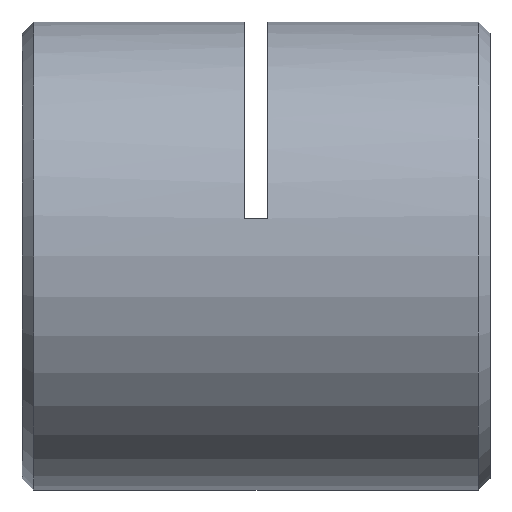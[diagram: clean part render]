
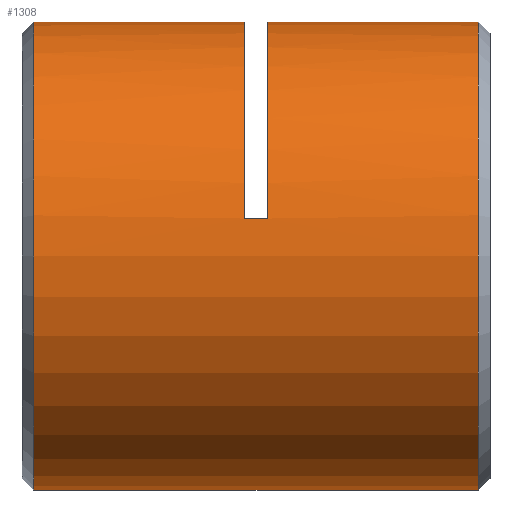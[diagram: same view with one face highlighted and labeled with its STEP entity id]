
A CAD part, left-side view. The second image highlights one B-rep face of the part: STEP entity #1308.
In plain terms, the highlighted cylindrical face has radius 8 mm (diameter 16 mm), a partial arc.
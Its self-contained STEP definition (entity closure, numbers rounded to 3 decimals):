
#137 = CIRCLE ( 'NONE', #2215, 8. ) ;
#167 = EDGE_CURVE ( 'NONE', #378, #611, #137, .T. ) ;
#194 = VERTEX_POINT ( 'NONE', #2678 ) ;
#281 = CARTESIAN_POINT ( 'NONE',  ( 0., 0.25, 0. ) ) ;
#305 = CARTESIAN_POINT ( 'NONE',  ( 0., 15.85, -8. ) ) ;
#313 = CIRCLE ( 'NONE', #2402, 8. ) ;
#334 = EDGE_CURVE ( 'NONE', #3452, #551, #3022, .T. ) ;
#378 = VERTEX_POINT ( 'NONE', #986 ) ;
#450 = VECTOR ( 'NONE', #2053, 1000. ) ;
#465 = CARTESIAN_POINT ( 'NONE',  ( 0., 0.65, 0. ) ) ;
#469 = VECTOR ( 'NONE', #997, 1000. ) ;
#509 = DIRECTION ( 'NONE',  ( 0., 0., 1. ) ) ;
#551 = VERTEX_POINT ( 'NONE', #305 ) ;
#611 = VERTEX_POINT ( 'NONE', #3945 ) ;
#690 = EDGE_CURVE ( 'NONE', #1125, #551, #3252, .T. ) ;
#921 = EDGE_CURVE ( 'NONE', #3122, #1125, #1378, .T. ) ;
#935 = CARTESIAN_POINT ( 'NONE',  ( 0., 15.85, 0. ) ) ;
#943 = AXIS2_PLACEMENT_3D ( 'NONE', #465, #1076, #2859 ) ;
#986 = CARTESIAN_POINT ( 'NONE',  ( -7.897, 7.85, 1.28 ) ) ;
#997 = DIRECTION ( 'NONE',  ( 0., 1., 0. ) ) ;
#1023 = ORIENTED_EDGE ( 'NONE', *, *, #3927, .T. ) ;
#1076 = DIRECTION ( 'NONE',  ( 0., 1., 0. ) ) ;
#1079 = CARTESIAN_POINT ( 'NONE',  ( 0., 8.65, 0. ) ) ;
#1092 = DIRECTION ( 'NONE',  ( 0., 1., 0. ) ) ;
#1125 = VERTEX_POINT ( 'NONE', #1336 ) ;
#1185 = CARTESIAN_POINT ( 'NONE',  ( 0., 0.25, 8. ) ) ;
#1201 = CARTESIAN_POINT ( 'NONE',  ( 0., 0.65, 8. ) ) ;
#1220 = CARTESIAN_POINT ( 'NONE',  ( 0., 0.65, -8. ) ) ;
#1228 = ORIENTED_EDGE ( 'NONE', *, *, #334, .F. ) ;
#1308 = ADVANCED_FACE ( 'NONE', ( #2307 ), #1414, .T. ) ;
#1318 = EDGE_LOOP ( 'NONE', ( #1228, #1023, #2724, #3926, #1884, #2126, #1480, #1545 ) ) ;
#1336 = CARTESIAN_POINT ( 'NONE',  ( 0., 15.85, 8. ) ) ;
#1378 = LINE ( 'NONE', #3029, #450 ) ;
#1385 = EDGE_CURVE ( 'NONE', #3060, #611, #3031, .T. ) ;
#1414 = CYLINDRICAL_SURFACE ( 'NONE', #2755, 8. ) ;
#1480 = ORIENTED_EDGE ( 'NONE', *, *, #921, .T. ) ;
#1545 = ORIENTED_EDGE ( 'NONE', *, *, #690, .T. ) ;
#1866 = LINE ( 'NONE', #1975, #2177 ) ;
#1884 = ORIENTED_EDGE ( 'NONE', *, *, #2695, .T. ) ;
#1975 = CARTESIAN_POINT ( 'NONE',  ( -7.897, 8.25, 1.28 ) ) ;
#1992 = DIRECTION ( 'NONE',  ( 0., 1., 0. ) ) ;
#2042 = DIRECTION ( 'NONE',  ( 0., 1., 0. ) ) ;
#2053 = DIRECTION ( 'NONE',  ( 0., 1., 0. ) ) ;
#2054 = CARTESIAN_POINT ( 'NONE',  ( 0., 7.85, 0. ) ) ;
#2126 = ORIENTED_EDGE ( 'NONE', *, *, #2963, .T. ) ;
#2141 = DIRECTION ( 'NONE',  ( 0., -1., 0. ) ) ;
#2177 = VECTOR ( 'NONE', #1992, 1000. ) ;
#2186 = CARTESIAN_POINT ( 'NONE',  ( 0., 8.65, 8. ) ) ;
#2215 = AXIS2_PLACEMENT_3D ( 'NONE', #2054, #2042, #2993 ) ;
#2307 = FACE_OUTER_BOUND ( 'NONE', #1318, .T. ) ;
#2402 = AXIS2_PLACEMENT_3D ( 'NONE', #1079, #1092, #509 ) ;
#2448 = DIRECTION ( 'NONE',  ( 0., 0., -1. ) ) ;
#2460 = CIRCLE ( 'NONE', #943, 8. ) ;
#2678 = CARTESIAN_POINT ( 'NONE',  ( -7.897, 8.65, 1.28 ) ) ;
#2686 = DIRECTION ( 'NONE',  ( 0., 1., 0. ) ) ;
#2690 = VECTOR ( 'NONE', #3647, 1000. ) ;
#2695 = EDGE_CURVE ( 'NONE', #378, #194, #1866, .T. ) ;
#2724 = ORIENTED_EDGE ( 'NONE', *, *, #1385, .T. ) ;
#2755 = AXIS2_PLACEMENT_3D ( 'NONE', #281, #2686, #3943 ) ;
#2859 = DIRECTION ( 'NONE',  ( 0., 0., 1. ) ) ;
#2963 = EDGE_CURVE ( 'NONE', #194, #3122, #313, .T. ) ;
#2993 = DIRECTION ( 'NONE',  ( 0., 0., 1. ) ) ;
#3022 = LINE ( 'NONE', #3703, #469 ) ;
#3029 = CARTESIAN_POINT ( 'NONE',  ( 0., 0.25, 8. ) ) ;
#3031 = LINE ( 'NONE', #1185, #2690 ) ;
#3060 = VERTEX_POINT ( 'NONE', #1201 ) ;
#3122 = VERTEX_POINT ( 'NONE', #2186 ) ;
#3252 = CIRCLE ( 'NONE', #3645, 8. ) ;
#3452 = VERTEX_POINT ( 'NONE', #1220 ) ;
#3645 = AXIS2_PLACEMENT_3D ( 'NONE', #935, #2141, #2448 ) ;
#3647 = DIRECTION ( 'NONE',  ( 0., 1., 0. ) ) ;
#3703 = CARTESIAN_POINT ( 'NONE',  ( 0., 0.25, -8. ) ) ;
#3926 = ORIENTED_EDGE ( 'NONE', *, *, #167, .F. ) ;
#3927 = EDGE_CURVE ( 'NONE', #3452, #3060, #2460, .T. ) ;
#3943 = DIRECTION ( 'NONE',  ( 0., 0., 1. ) ) ;
#3945 = CARTESIAN_POINT ( 'NONE',  ( 0., 7.85, 8. ) ) ;
